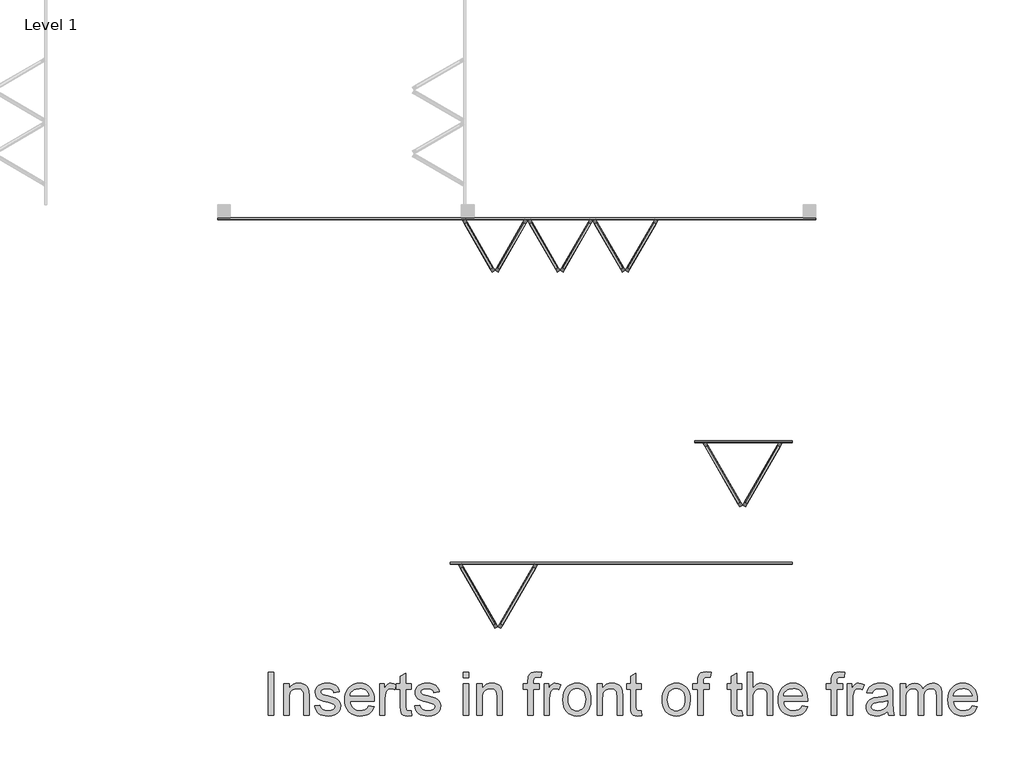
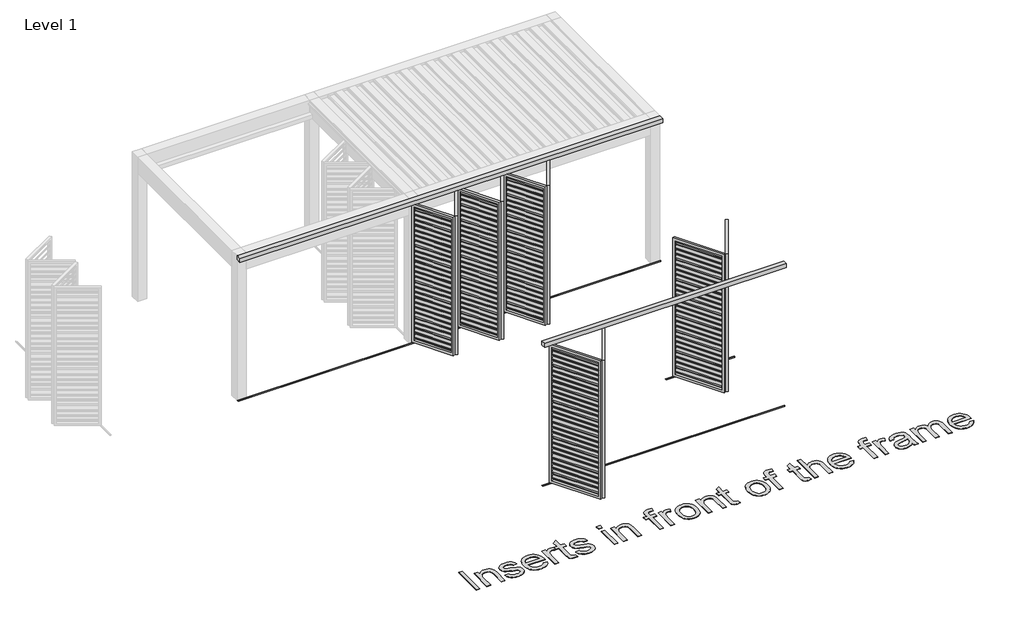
# One storey, part 20 of 80: 4 proxies.
"""IFC4 building model written with IfcOpenShell, lengths in millimetres."""

from ifc_helpers import new_model, si_unit, origin, origin_with_axes, place, context, project, spatial, polyline, outline, extrude, transform, mapped, element, save
from components import generic_models_ddcf315a, generic_models_abf47c1b, generic_models_126ff3a6, generic_models_4d2810b8, generic_models_fbcb0b04, generic_models_bdf7e427, generic_models_65c50402, generic_models_dd5ebc42

model = new_model("IFC4")

# Units and contexts
model_context = context("Model", 3, world=origin())
ifc_project = project(units=[si_unit("LENGTHUNIT", "METRE", prefix="MILLI")], contexts=[model_context])

# Site, building, storey
site = spatial("IfcSite", under=ifc_project)
building = spatial("IfcBuilding", under=site)
storey = spatial("IfcBuildingStorey", under=building, Name="Level 1", Elevation=0.0)

# Proxies
placement = place(None, origin())
generic_models_shape = generic_models_ddcf315a(model_context)
generic_models_2_shape = generic_models_abf47c1b(model_context)
element("IfcBuildingElementProxy", 1, Name="Renson_Amani_Loggia_Paro_Aluminium_Folding : Renson_Amani_Loggia_Paro_Aluminium_Folding", ObjectType="Renson_Amani_Loggia_Paro_Aluminium_Folding : Renson_Amani_Loggia_Paro_Aluminium_Folding", at=placement, inside=storey, context=model_context, shape_type="MappedRepresentation", body=[
    mapped(generic_models_shape, transform((392310.5749426, -45865.4892646, 0.0), x_axis=(1.0, 0.0, 0.0), y_axis=(0.0, 1.0, 0.0), z_axis=(0.0, 0.0, 1.0))),
    mapped(generic_models_2_shape, transform((392310.5749426, -45865.4892646, 0.0), x_axis=(1.0, 0.0, 0.0), y_axis=(0.0, 1.0, 0.0), z_axis=(0.0, 0.0, 1.0))),
])
generic_models_3_shape = generic_models_126ff3a6(model_context)
generic_models_4_shape = generic_models_4d2810b8(model_context)
element("IfcBuildingElementProxy", 2, Name="Renson_Amani_Loggia_Paro_Aluminium_Folding : Renson_Amani_Loggia_Paro_Aluminium_Folding", ObjectType="Renson_Amani_Loggia_Paro_Aluminium_Folding : Renson_Amani_Loggia_Paro_Aluminium_Folding", at=placement, inside=storey, context=model_context, shape_type="MappedRepresentation", body=[
    mapped(generic_models_3_shape, transform((395172.6465088, -44443.5650172, 0.0), x_axis=(1.0, 0.0, 0.0), y_axis=(0.0, 1.0, 0.0), z_axis=(0.0, 0.0, 1.0))),
    mapped(generic_models_4_shape, transform((395172.6465088, -44443.5650172, 0.0), x_axis=(1.0, 0.0, 0.0), y_axis=(0.0, 1.0, 0.0), z_axis=(0.0, 0.0, 1.0))),
])
generic_models_5_shape = generic_models_fbcb0b04(model_context)
generic_models_6_shape = generic_models_bdf7e427(model_context)
generic_models_7_shape = generic_models_65c50402(model_context)
generic_models_8_shape = generic_models_dd5ebc42(model_context)
element("IfcBuildingElementProxy", 3, Name="Renson_Amani_Loggia_Paro_Aluminium_Folding : Renson_Amani_Loggia_Paro_Aluminium_Folding", ObjectType="Renson_Amani_Loggia_Paro_Aluminium_Folding : Renson_Amani_Loggia_Paro_Aluminium_Folding", at=placement, inside=storey, context=model_context, shape_type="MappedRepresentation", body=[
    mapped(generic_models_5_shape, transform((392356.6346059, -41698.6077604, 0.0), x_axis=(1.0, 0.0, 0.0), y_axis=(0.0, 1.0, 0.0), z_axis=(0.0, 0.0, 1.0))),
    mapped(generic_models_6_shape, transform((392356.6346059, -41698.6077604, 0.0), x_axis=(1.0, 0.0, 0.0), y_axis=(0.0, 1.0, 0.0), z_axis=(0.0, 0.0, 1.0))),
    mapped(generic_models_7_shape, transform((392356.6346059, -41698.6077604, 0.0), x_axis=(1.0, 0.0, 0.0), y_axis=(0.0, 1.0, 0.0), z_axis=(0.0, 0.0, 1.0))),
    mapped(generic_models_8_shape, transform((392356.6346059, -41698.6077604, 0.0), x_axis=(1.0, 0.0, 0.0), y_axis=(0.0, 1.0, 0.0), z_axis=(0.0, 0.0, 1.0))),
])
element("IfcBuildingElementProxy", 4, Name="500mm Arial", ObjectType="500mm Arial", at=placement, inside=storey, context=model_context, shape_type="SweptSolid", body=[
    extrude(outline(polyline([(390083.7434432, -46882.3382736), (390083.7434432, -46380.0567228), (390146.5286371, -46380.0567228), (390146.5286371, -46882.3382736), (390083.7434432, -46882.3382736)])), origin_with_axes(), (0.0, 0.0, 1.0), 5.0),
    extrude(outline(polyline([(390264.2508755, -46882.3382736), (390264.2508755, -46513.4752597), (390327.0360694, -46513.4752597), (390327.0360694, -46564.9787391), (390348.848406, -46539.0124016), (390375.0446697, -46520.4650176), (390405.6248606, -46509.3365873), (390440.5889785, -46505.6271105), (390471.5370514, -46508.6161517), (390499.8792934, -46517.5832753), (390523.5157116, -46531.409507), (390540.3463129, -46548.9758723), (390551.7659832, -46570.2363859), (390559.1696083, -46595.1450627), (390562.4805463, -46655.8455919), (390562.4805463, -46882.3382736), (390499.6953524, -46882.3382736), (390499.6953524, -46664.3068778), (390497.8865993, -46631.8412917), (390492.4603399, -46608.7566965), (390482.4508839, -46592.2173351), (390466.8925412, -46579.3874505), (390446.9502714, -46571.1560909), (390423.7890341, -46568.4123043), (390404.7243161, -46569.9528102), (390387.016163, -46574.5743278), (390370.6645747, -46582.276857), (390355.6695513, -46593.060398), (390343.142403, -46608.151224), (390334.1944399, -46628.7756084), (390328.825662, -46654.9335511), (390327.0360694, -46686.6250521), (390327.0360694, -46882.3382736), (390264.2508755, -46882.3382736)])), origin_with_axes(), (0.0, 0.0, 1.0), 5.0),
    extrude(outline(polyline([(390625.2657401, -46772.4641843), (390688.050934, -46764.6160351), (390697.953091, -46791.4714208), (390717.1136116, -46811.2144212), (390745.655123, -46823.354527), (390783.7002527, -46827.4012289), (390821.2855299, -46823.6917522), (390847.7117199, -46812.5633218), (390863.3467047, -46796.4378277), (390868.5583663, -46777.7371596), (390863.3160478, -46761.7342928), (390847.5890925, -46749.5328733), (390782.9644887, -46731.6292829), (390725.666868, -46715.0592647), (390688.418816, -46700.9111363), (390664.4911579, -46685.4754209), (390647.1547188, -46665.0426417), (390636.6240967, -46640.9157142), (390633.1138894, -46614.3975537), (390635.934318, -46590.0713568), (390644.3956039, -46567.6152267), (390657.7313262, -46547.9182115), (390675.1750641, -46531.8693595), (390692.5115032, -46521.767933), (390715.0902606, -46513.2913187), (390741.1945539, -46507.5431626), (390769.1076002, -46505.6271105), (390809.9731585, -46508.7081222), (390845.5044279, -46517.9511573), (390874.0765962, -46532.4518393), (390894.0648513, -46551.3057916), (390907.3086031, -46575.9079), (390915.6472616, -46607.6530505), (390852.8620678, -46615.5011997), (390844.9372765, -46595.7428709), (390829.2563064, -46580.8589785), (390805.6658735, -46571.5239729), (390774.0126935, -46568.4123043), (390737.960258, -46571.3860171), (390713.925301, -46580.3071555), (390700.4056376, -46593.1830254), (390695.8990832, -46608.0209325), (390697.76915, -46617.6778349), (390703.3793504, -46626.2924049), (390712.9749391, -46633.98727), (390726.8011708, -46640.1492934), (390780.8798241, -46653.5156726), (390873.0342639, -46683.0688595), (390897.3757892, -46697.2016595), (390915.8312026, -46716.5461211), (390927.4654707, -46741.1635579), (390931.3435601, -46771.1152837), (390926.7910204, -46802.0786849), (390913.1334013, -46831.2026762), (390890.8918691, -46856.2033235), (390860.5875897, -46874.7966927), (390823.9833312, -46886.3389903), (390782.8418614, -46890.1864228), (390749.0503673, -46888.3316844), (390719.5355014, -46882.7674692), (390694.2972637, -46873.4937773), (390673.3356542, -46860.5106085), (390656.213813, -46843.8792766), (390642.4948802, -46823.6610953), (390632.1788559, -46799.8560646), (390625.2657401, -46772.4641843)])), origin_with_axes(), (0.0, 0.0, 1.0), 5.0),
    extrude(outline(polyline([(391260.2300638, -46772.4641843), (391321.7889843, -46780.3123336), (391312.3505119, -46804.9680915), (391299.6087657, -46826.6961218), (391283.5637458, -46845.4964246), (391264.2154521, -46861.3689998), (391241.7631541, -46873.9766224), (391216.4061211, -46882.9820671), (391188.1443533, -46888.3853339), (391156.9778505, -46890.1864228), (391118.02068, -46887.0785864), (391083.3094809, -46877.755077), (391052.8442532, -46862.2158948), (391026.6249969, -46840.4610398), (391005.54076, -46813.0959843), (390990.4805908, -46780.7262008), (390981.4444893, -46743.3516894), (390978.4324555, -46700.9724499), (390981.4751462, -46657.1561715), (390990.6032182, -46618.5362262), (391005.8166715, -46585.1126141), (391027.1155062, -46556.8853352), (391053.2657847, -46534.4598619), (391083.0335695, -46518.4416667), (391116.4188605, -46508.8307495), (391153.4216579, -46505.6271105), (391189.2326708, -46508.8230853), (391221.6177827, -46518.4110098), (391250.5769935, -46534.390884), (391276.1103033, -46556.7627078), (391296.9531175, -46584.9286731), (391311.840842, -46618.2909715), (391320.7734767, -46656.8496031), (391323.7510216, -46700.6045679), (391323.3831396, -46717.5271397), (391041.2176493, -46717.5271397), (391044.8543161, -46742.5814364), (391052.0854966, -46764.5240646), (391062.9111907, -46783.3550242), (391077.3313985, -46799.0743153), (391094.5490423, -46811.46734), (391113.7670445, -46820.3195005), (391134.985405, -46825.6307968), (391158.2041238, -46827.4012289), (391191.6200717, -46824.1209478), (391219.7630443, -46814.2801045), (391242.6330417, -46797.2655622), (391260.2300638, -46772.4641843)]), holes=[polyline([(391041.2176493, -46654.7419459), (391260.9658278, -46654.7419459), (391252.4738851, -46621.5712526), (391235.8272248, -46597.842864), (391218.7053836, -46584.9669941), (391199.2229663, -46575.7699442), (391177.3799728, -46570.2517143), (391153.1764032, -46568.4123043), (391110.8546453, -46574.2830879), (391092.4413851, -46581.6215672), (391075.8598705, -46591.8954384), (391061.9455005, -46604.6295203), (391051.5336736, -46619.3486323), (391044.6243899, -46636.0527741), (391041.2176493, -46654.7419459)])]), origin_with_axes(), (0.0, 0.0, 1.0), 5.0),
    extrude(outline(polyline([(391755.3992293, -46829.9764029), (391763.2473785, -46884.1776835), (391716.2811105, -46890.1864228), (391686.1454437, -46887.580592), (391663.6739852, -46879.7630996), (391647.7937457, -46867.7149643), (391637.4317362, -46852.4172046), (391631.7295653, -46826.1442988), (391629.8288416, -46781.1707249), (391629.8288416, -46576.2604536), (391582.7399462, -46576.2604536), (391582.7399462, -46525.0022289), (391582.7399462, -46513.4752597), (391629.8288416, -46513.4752597), (391629.8288416, -46423.8346802), (391692.6140355, -46386.9238534), (391692.6140355, -46513.4752597), (391755.3992293, -46513.4752597), (391755.3992293, -46576.2604536), (391692.6140355, -46576.2604536), (391692.6140355, -46779.3313149), (391695.9249734, -46811.7049305), (391706.6548649, -46823.170586), (391728.0533343, -46827.4012289), (391755.3992293, -46829.9764029)])), origin_with_axes(), (0.0, 0.0, 1.0), 5.0),
    extrude(outline(polyline([(391386.5362155, -46882.3382736), (391386.5362155, -46513.4752597), (391441.4732601, -46513.4752597), (391441.4732601, -46568.0444223), (391461.7680835, -46536.4065708), (391480.4687516, -46517.7672163), (391499.2307333, -46508.662137), (391519.7094977, -46505.6271105), (391550.9794673, -46510.4708901), (391582.7399462, -46525.0022289), (391561.7706725, -46581.2881742), (391539.6977528, -46571.6312718), (391517.6248331, -46568.4123043), (391498.8781798, -46571.5086445), (391482.1242206, -46580.7976648), (391468.5892288, -46595.5742583), (391459.4994779, -46615.1333177), (391451.8659265, -46650.2047346), (391449.3214093, -46688.4644621), (391449.3214093, -46882.3382736), (391386.5362155, -46882.3382736)])), origin_with_axes(), (0.0, 0.0, 1.0), 5.0),
    extrude(outline(polyline([(391794.6399755, -46772.4641843), (391857.4251693, -46764.6160351), (391867.3273263, -46791.4714208), (391886.4878469, -46811.2144212), (391915.0293584, -46823.354527), (391953.074488, -46827.4012289), (391990.6597652, -46823.6917522), (392017.0859552, -46812.5633218), (392032.72094, -46796.4378277), (392037.9326016, -46777.7371596), (392032.6902832, -46761.7342928), (392016.9633279, -46749.5328733), (391952.3387241, -46731.6292829), (391895.0411033, -46715.0592647), (391857.7930513, -46700.9111363), (391833.8653932, -46685.4754209), (391816.5289542, -46665.0426417), (391805.9983321, -46640.9157142), (391802.4881247, -46614.3975537), (391805.3085533, -46590.0713568), (391813.7698392, -46567.6152267), (391827.1055615, -46547.9182115), (391844.5492995, -46531.8693595), (391861.8857385, -46521.767933), (391884.4644959, -46513.2913187), (391910.5687892, -46507.5431626), (391938.4818356, -46505.6271105), (391979.3473939, -46508.7081222), (392014.8786632, -46517.9511573), (392043.4508315, -46532.4518393), (392063.4390866, -46551.3057916), (392076.6828384, -46575.9079), (392085.021497, -46607.6530505), (392022.2363031, -46615.5011997), (392014.3115118, -46595.7428709), (391998.6305418, -46580.8589785), (391975.0401088, -46571.5239729), (391943.3869288, -46568.4123043), (391907.3344933, -46571.3860171), (391883.2995363, -46580.3071555), (391869.779873, -46593.1830254), (391865.2733185, -46608.0209325), (391867.1433853, -46617.6778349), (391872.7535858, -46626.2924049), (391882.3491745, -46633.98727), (391896.1754061, -46640.1492934), (391950.2540594, -46653.5156726), (392042.4084992, -46683.0688595), (392066.7500246, -46697.2016595), (392085.205438, -46716.5461211), (392096.8397061, -46741.1635579), (392100.7177954, -46771.1152837), (392096.1652558, -46802.0786849), (392082.5076367, -46831.2026762), (392060.2661044, -46856.2033235), (392029.961825, -46874.7966927), (391993.3575665, -46886.3389903), (391952.2160967, -46890.1864228), (391918.4246026, -46888.3316844), (391888.9097367, -46882.7674692), (391863.671499, -46873.4937773), (391842.7098895, -46860.5106085), (391825.5880483, -46843.8792766), (391811.8691156, -46823.6610953), (391801.5530913, -46799.8560646), (391794.6399755, -46772.4641843)])), origin_with_axes(), (0.0, 0.0, 1.0), 5.0),
    extrude(outline(polyline([(392367.5548693, -46442.8419167), (392367.5548693, -46380.0567228), (392430.3400631, -46380.0567228), (392430.3400631, -46442.8419167), (392367.5548693, -46442.8419167)])), origin_with_axes(), (0.0, 0.0, 1.0), 5.0),
    extrude(outline(polyline([(392367.5548693, -46882.3382736), (392367.5548693, -46513.4752597), (392430.3400631, -46513.4752597), (392430.3400631, -46882.3382736), (392367.5548693, -46882.3382736)])), origin_with_axes(), (0.0, 0.0, 1.0), 5.0),
    extrude(outline(polyline([(392524.5178539, -46882.3382736), (392524.5178539, -46513.4752597), (392587.3030477, -46513.4752597), (392587.3030477, -46564.9787391), (392609.1153844, -46539.0124016), (392635.3116481, -46520.4650176), (392665.891839, -46509.3365873), (392700.8559569, -46505.6271105), (392731.8040298, -46508.6161517), (392760.1462718, -46517.5832753), (392783.78269, -46531.409507), (392800.6132913, -46548.9758723), (392812.0329615, -46570.2363859), (392819.4365867, -46595.1450627), (392822.7475246, -46655.8455919), (392822.7475246, -46882.3382736), (392759.9623308, -46882.3382736), (392759.9623308, -46664.3068778), (392758.1535777, -46631.8412917), (392752.7273182, -46608.7566965), (392742.7178623, -46592.2173351), (392727.1595196, -46579.3874505), (392707.2172497, -46571.1560909), (392684.0560125, -46568.4123043), (392664.9912945, -46569.9528102), (392647.2831414, -46574.5743278), (392630.9315531, -46582.276857), (392615.9365297, -46593.060398), (392603.4093813, -46608.151224), (392594.4614182, -46628.7756084), (392589.0926404, -46654.9335511), (392587.3030477, -46686.6250521), (392587.3030477, -46882.3382736), (392524.5178539, -46882.3382736)])), origin_with_axes(), (0.0, 0.0, 1.0), 5.0),
    extrude(outline(polyline([(393120.9771954, -46882.3382736), (393120.9771954, -46576.2604536), (393066.0401508, -46576.2604536), (393066.0401508, -46513.4752597), (393120.9771954, -46513.4752597), (393120.9771954, -46476.3191782), (393122.6326644, -46445.5703748), (393127.5990713, -46423.9573076), (393140.2296865, -46403.0800043), (393159.7274322, -46386.5559714), (393187.0120135, -46375.795423), (393223.0031354, -46372.2085736), (393280.2700993, -46379.0757042), (393271.0730494, -46437.9368234), (393234.8979866, -46434.9937674), (393211.0316421, -46437.5995982), (393195.3506721, -46445.4170906), (393186.65946, -46460.3469683), (393183.7623892, -46484.2899548), (393183.7623892, -46513.4752597), (393254.3957323, -46513.4752597), (393254.3957323, -46576.2604536), (393183.7623892, -46576.2604536), (393183.7623892, -46882.3382736), (393120.9771954, -46882.3382736)])), origin_with_axes(), (0.0, 0.0, 1.0), 5.0),
    extrude(outline(polyline([(393309.3327769, -46882.3382736), (393309.3327769, -46513.4752597), (393364.2698215, -46513.4752597), (393364.2698215, -46568.0444223), (393384.5646449, -46536.4065708), (393403.265313, -46517.7672163), (393422.0272948, -46508.662137), (393442.5060592, -46505.6271105), (393473.7760288, -46510.4708901), (393505.5365077, -46525.0022289), (393484.567234, -46581.2881742), (393462.4943143, -46571.6312718), (393440.4213945, -46568.4123043), (393421.6747412, -46571.5086445), (393404.920782, -46580.7976648), (393391.3857903, -46595.5742583), (393382.2960393, -46615.1333177), (393374.6624879, -46650.2047346), (393372.1179708, -46688.4644621), (393372.1179708, -46882.3382736), (393309.3327769, -46882.3382736)])), origin_with_axes(), (0.0, 0.0, 1.0), 5.0),
    extrude(outline(polyline([(393529.0809554, -46697.9067666), (393532.4761996, -46650.1357567), (393542.6619324, -46608.9712943), (393559.6381536, -46574.4133794), (393583.4048633, -46546.462012), (393607.3325214, -46528.5967426), (393633.743383, -46515.8358359), (393662.637448, -46508.1792918), (393694.0147166, -46505.6271105), (393728.6531057, -46508.7349469), (393759.9728926, -46518.0584563), (393787.9740774, -46533.5976384), (393812.65666, -46555.3524935), (393832.8020313, -46582.5872575), (393847.1915823, -46614.5661663), (393855.8253129, -46651.2892201), (393858.7032231, -46692.7564187), (393853.6141888, -46756.185406), (393847.252896, -46782.2207214), (393838.347086, -46804.4699179), (393827.0078899, -46823.6879201), (393813.3464387, -46840.6296524), (393797.3627325, -46855.2951148), (393779.0567711, -46867.6843074), (393738.3291686, -46884.5608939), (393694.0147166, -46890.1864228), (393658.8704897, -46887.0900827), (393627.2594628, -46877.8010623), (393599.181636, -46862.3193617), (393574.6370091, -46840.6449808), (393554.7062356, -46813.1458016), (393540.4699688, -46780.1897062), (393531.9282087, -46741.7766946), (393529.0809554, -46697.9067666)]), holes=[polyline([(393591.8661492, -46697.7841393), (393593.6825666, -46728.2378707), (393599.1318186, -46754.6065792), (393608.2139054, -46776.8902646), (393620.9288268, -46795.088927), (393636.3951991, -46809.2255591), (393653.7316381, -46819.3231535), (393672.9381439, -46825.3817101), (393694.0147166, -46827.4012289), (393714.9839903, -46825.3702138), (393734.113854, -46819.2771682), (393751.4043078, -46809.1220923), (393766.8553516, -46794.904986), (393779.5702731, -46776.5262147), (393788.6523598, -46753.8861436), (393794.1016119, -46726.9847727), (393795.9180292, -46695.822102), (393794.0901156, -46666.3340608), (393788.6063746, -46640.6551311), (393779.4668062, -46618.785313), (393766.6714106, -46600.7246063), (393751.1628852, -46586.5879742), (393733.8839278, -46576.4903798), (393714.8345382, -46570.4318232), (393694.0147166, -46568.4123043), (393672.9381439, -46570.424159), (393653.7316381, -46576.459723), (393636.3951991, -46586.5189963), (393620.9288268, -46600.6019789), (393608.2139054, -46618.7469919), (393599.1318186, -46640.9923563), (393593.6825666, -46667.3380721), (393591.8661492, -46697.7841393)])]), origin_with_axes(), (0.0, 0.0, 1.0), 5.0),
    extrude(outline(polyline([(393929.3365661, -46882.3382736), (393929.3365661, -46513.4752597), (393992.12176, -46513.4752597), (393992.12176, -46564.9787391), (394013.9340966, -46539.0124016), (394040.1303604, -46520.4650176), (394070.7105512, -46509.3365873), (394105.6746692, -46505.6271105), (394136.622742, -46508.6161517), (394164.964984, -46517.5832753), (394188.6014022, -46531.409507), (394205.4320035, -46548.9758723), (394216.8516738, -46570.2363859), (394224.2552989, -46595.1450627), (394227.5662369, -46655.8455919), (394227.5662369, -46882.3382736), (394164.781043, -46882.3382736), (394164.781043, -46664.3068778), (394162.9722899, -46631.8412917), (394157.5460305, -46608.7566965), (394147.5365745, -46592.2173351), (394131.9782318, -46579.3874505), (394112.035962, -46571.1560909), (394088.8747247, -46568.4123043), (394069.8100067, -46569.9528102), (394052.1018536, -46574.5743278), (394035.7502653, -46582.276857), (394020.7552419, -46593.060398), (394008.2280936, -46608.151224), (393999.2801305, -46628.7756084), (393993.9113526, -46654.9335511), (393992.12176, -46686.6250521), (393992.12176, -46882.3382736), (393929.3365661, -46882.3382736)])), origin_with_axes(), (0.0, 0.0, 1.0), 5.0),
    extrude(outline(polyline([(394447.3144153, -46829.9764029), (394455.1625646, -46884.1776835), (394408.1962965, -46890.1864228), (394378.0606298, -46887.580592), (394355.5891712, -46879.7630996), (394339.7089318, -46867.7149643), (394329.3469222, -46852.4172046), (394323.6447513, -46826.1442988), (394321.7440277, -46781.1707249), (394321.7440277, -46576.2604536), (394274.6551323, -46576.2604536), (394274.6551323, -46513.4752597), (394321.7440277, -46513.4752597), (394321.7440277, -46423.8346802), (394384.5292215, -46386.9238534), (394384.5292215, -46513.4752597), (394447.3144153, -46513.4752597), (394447.3144153, -46576.2604536), (394384.5292215, -46576.2604536), (394384.5292215, -46779.3313149), (394387.8401595, -46811.7049305), (394398.570051, -46823.170586), (394419.9685204, -46827.4012289), (394447.3144153, -46829.9764029)])), origin_with_axes(), (0.0, 0.0, 1.0), 5.0),
    extrude(outline(polyline([(394690.6070415, -46697.9067666), (394694.0022857, -46650.1357567), (394704.1880185, -46608.9712943), (394721.1642397, -46574.4133794), (394744.9309494, -46546.462012), (394768.8586075, -46528.5967426), (394795.2694691, -46515.8358359), (394824.1635342, -46508.1792918), (394855.5408027, -46505.6271105), (394890.1791918, -46508.7349469), (394921.4989787, -46518.0584563), (394949.5001635, -46533.5976384), (394974.1827461, -46555.3524935), (394994.3281174, -46582.5872575), (395008.7176684, -46614.5661663), (395017.351399, -46651.2892201), (395020.2293092, -46692.7564187), (395015.1402749, -46756.185406), (395008.7789821, -46782.2207214), (394999.8731721, -46804.4699179), (394988.533976, -46823.6879201), (394974.8725248, -46840.6296524), (394958.8888186, -46855.2951148), (394940.5828572, -46867.6843074), (394899.8552547, -46884.5608939), (394855.5408027, -46890.1864228), (394820.3965758, -46887.0900827), (394788.785549, -46877.8010623), (394760.7077221, -46862.3193617), (394736.1630952, -46840.6449808), (394716.2323217, -46813.1458016), (394701.9960549, -46780.1897062), (394693.4542948, -46741.7766946), (394690.6070415, -46697.9067666)]), holes=[polyline([(394753.3922353, -46697.7841393), (394755.2086527, -46728.2378707), (394760.6579047, -46754.6065792), (394769.7399915, -46776.8902646), (394782.454913, -46795.088927), (394797.9212852, -46809.2255591), (394815.2577242, -46819.3231535), (394834.46423, -46825.3817101), (394855.5408027, -46827.4012289), (394876.5100764, -46825.3702138), (394895.6399401, -46819.2771682), (394912.9303939, -46809.1220923), (394928.3814377, -46794.904986), (394941.0963592, -46776.5262147), (394950.1784459, -46753.8861436), (394955.627698, -46726.9847727), (394957.4441153, -46695.822102), (394955.6162017, -46666.3340608), (394950.1324607, -46640.6551311), (394940.9928924, -46618.785313), (394928.1974967, -46600.7246063), (394912.6889713, -46586.5879742), (394895.4100139, -46576.4903798), (394876.3606243, -46570.4318232), (394855.5408027, -46568.4123043), (394834.46423, -46570.424159), (394815.2577242, -46576.459723), (394797.9212852, -46586.5189963), (394782.454913, -46600.6019789), (394769.7399915, -46618.7469919), (394760.6579047, -46640.9923563), (394755.2086527, -46667.3380721), (394753.3922353, -46697.7841393)])]), origin_with_axes(), (0.0, 0.0, 1.0), 5.0),
    extrude(outline(polyline([(395106.5589507, -46882.3382736), (395106.5589507, -46576.2604536), (395051.6219061, -46576.2604536), (395051.6219061, -46513.4752597), (395106.5589507, -46513.4752597), (395106.5589507, -46476.3191782), (395108.2144197, -46445.5703748), (395113.1808266, -46423.9573076), (395125.8114418, -46403.0800043), (395145.3091875, -46386.5559714), (395172.5937688, -46375.795423), (395208.5848907, -46372.2085736), (395265.8518546, -46379.0757042), (395256.6548047, -46437.9368234), (395220.4797419, -46434.9937674), (395196.6133974, -46437.5995982), (395180.9324274, -46445.4170906), (395172.2412153, -46460.3469683), (395169.3441445, -46484.2899548), (395169.3441445, -46513.4752597), (395239.9774876, -46513.4752597), (395239.9774876, -46576.2604536), (395169.3441445, -46576.2604536), (395169.3441445, -46882.3382736), (395106.5589507, -46882.3382736)])), origin_with_axes(), (0.0, 0.0, 1.0), 5.0),
    extrude(outline(polyline([(395624.5367999, -46829.9764029), (395632.3849491, -46884.1776835), (395585.4186811, -46890.1864228), (395555.2830143, -46887.580592), (395532.8115558, -46879.7630996), (395516.9313163, -46867.7149643), (395506.5693068, -46852.4172046), (395500.8671359, -46826.1442988), (395498.9664122, -46781.1707249), (395498.9664122, -46576.2604536), (395451.8775168, -46576.2604536), (395451.8775168, -46513.4752597), (395498.9664122, -46513.4752597), (395498.9664122, -46423.8346802), (395561.7516061, -46386.9238534), (395561.7516061, -46513.4752597), (395624.5367999, -46513.4752597), (395624.5367999, -46576.2604536), (395561.7516061, -46576.2604536), (395561.7516061, -46779.3313149), (395565.062544, -46811.7049305), (395575.7924355, -46823.170586), (395597.1909049, -46827.4012289), (395624.5367999, -46829.9764029)])), origin_with_axes(), (0.0, 0.0, 1.0), 5.0),
    extrude(outline(polyline([(395687.3219938, -46882.3382736), (395687.3219938, -46380.0567228), (395750.1071876, -46380.0567228), (395750.1071876, -46564.7334844), (395773.1687902, -46538.8744458), (395799.0661498, -46520.403704), (395827.7992665, -46509.3212589), (395859.3681402, -46505.6271105), (395897.2906425, -46509.658484), (395929.8788559, -46521.7526046), (395955.5386251, -46540.9591105), (395972.6757947, -46566.3276397), (395982.3326971, -46601.1844587), (395985.5516645, -46648.855834), (395985.5516645, -46882.3382736), (395922.7664707, -46882.3382736), (395922.7664707, -46655.3550825), (395917.7694069, -46616.0530227), (395911.5230772, -46601.046503), (395902.7782156, -46589.1363234), (395891.7417557, -46580.0695651), (395878.6206312, -46573.5933091), (395846.1243883, -46568.4123043), (395819.5908994, -46571.9071833), (395794.6822227, -46582.3918202), (395774.0501741, -46598.8545394), (395760.3465698, -46620.2836657), (395752.6670331, -46648.7638635), (395750.1071876, -46686.3797975), (395750.1071876, -46882.3382736), (395687.3219938, -46882.3382736)])), origin_with_axes(), (0.0, 0.0, 1.0), 5.0),
    extrude(outline(polyline([(396330.1344667, -46772.4641843), (396391.6933872, -46780.3123336), (396382.2549147, -46804.9680915), (396369.5131686, -46826.6961218), (396353.4681486, -46845.4964246), (396334.1198549, -46861.3689998), (396311.6675569, -46873.9766224), (396286.310524, -46882.9820671), (396258.0487561, -46888.3853339), (396226.8822533, -46890.1864228), (396187.9250829, -46887.0785864), (396153.2138838, -46877.755077), (396122.7486561, -46862.2158948), (396096.5293997, -46840.4610398), (396075.4451629, -46813.0959843), (396060.3849937, -46780.7262008), (396051.3488922, -46743.3516894), (396048.3368584, -46700.9724499), (396051.379549, -46657.1561715), (396060.507621, -46618.5362262), (396075.7210744, -46585.1126141), (396097.019909, -46556.8853352), (396123.1701875, -46534.4598619), (396152.9379723, -46518.4416667), (396186.3232634, -46508.8307495), (396223.3260607, -46505.6271105), (396259.1370737, -46508.8230853), (396291.5221856, -46518.4110098), (396320.4813964, -46534.390884), (396346.0147061, -46556.7627078), (396366.8575204, -46584.9286731), (396381.7452449, -46618.2909715), (396390.6778796, -46656.8496031), (396393.6554245, -46700.6045679), (396393.2875425, -46717.5271397), (396111.1220522, -46717.5271397), (396114.758719, -46742.5814364), (396121.9898995, -46764.5240646), (396132.8155936, -46783.3550242), (396147.2358014, -46799.0743153), (396164.4534452, -46811.46734), (396183.6714473, -46820.3195005), (396204.8898078, -46825.6307968), (396228.1085267, -46827.4012289), (396261.5244746, -46824.1209478), (396289.6674472, -46814.2801045), (396312.5374446, -46797.2655622), (396330.1344667, -46772.4641843)]), holes=[polyline([(396111.1220522, -46654.7419459), (396330.8702307, -46654.7419459), (396322.3782879, -46621.5712526), (396305.7316276, -46597.842864), (396288.6097865, -46584.9669941), (396269.1273691, -46575.7699442), (396247.2843757, -46570.2517143), (396223.0808061, -46568.4123043), (396180.7590482, -46574.2830879), (396162.3457879, -46581.6215672), (396145.7642734, -46591.8954384), (396131.8499034, -46604.6295203), (396121.4380765, -46619.3486323), (396114.5287928, -46636.0527741), (396111.1220522, -46654.7419459)])]), origin_with_axes(), (0.0, 0.0, 1.0), 5.0),
    extrude(outline(polyline([(396668.3406476, -46882.3382736), (396668.3406476, -46576.2604536), (396613.4036029, -46576.2604536), (396613.4036029, -46513.4752597), (396668.3406476, -46513.4752597), (396668.3406476, -46476.3191782), (396669.9961165, -46445.5703748), (396674.9625235, -46423.9573076), (396687.5931386, -46403.0800043), (396707.0908844, -46386.5559714), (396734.3754657, -46375.795423), (396770.3665876, -46372.2085736), (396827.6335515, -46379.0757042), (396818.4365016, -46437.9368234), (396782.2614387, -46434.9937674), (396758.3950943, -46437.5995982), (396742.7141243, -46445.4170906), (396734.0229121, -46460.3469683), (396731.1258414, -46484.2899548), (396731.1258414, -46513.4752597), (396801.7591845, -46513.4752597), (396801.7591845, -46576.2604536), (396731.1258414, -46576.2604536), (396731.1258414, -46882.3382736), (396668.3406476, -46882.3382736)])), origin_with_axes(), (0.0, 0.0, 1.0), 5.0),
    extrude(outline(polyline([(396856.6962291, -46882.3382736), (396856.6962291, -46513.4752597), (396911.6332737, -46513.4752597), (396911.6332737, -46568.0444223), (396931.9280971, -46536.4065708), (396950.6287652, -46517.7672163), (396969.3907469, -46508.662137), (396989.8695113, -46505.6271105), (397021.1394809, -46510.4708901), (397052.8999599, -46525.0022289), (397031.9306861, -46581.2881742), (397009.8577664, -46571.6312718), (396987.7848467, -46568.4123043), (396969.0381934, -46571.5086445), (396952.2842342, -46580.7976648), (396938.7492424, -46595.5742583), (396929.6594915, -46615.1333177), (396922.0259401, -46650.2047346), (396919.4814229, -46688.4644621), (396919.4814229, -46882.3382736), (396856.6962291, -46882.3382736)])), origin_with_axes(), (0.0, 0.0, 1.0), 5.0),
    extrude(outline(polyline([(397327.5851829, -46835.2493782), (397297.5874719, -46860.970461), (397266.7007127, -46877.8010623), (397234.2197982, -46887.0900827), (397199.4396213, -46890.1864228), (397171.4844217, -46888.3240202), (397146.9704517, -46882.7368124), (397125.8977112, -46873.4247994), (397108.2662001, -46860.3879812), (397094.3441659, -46844.4540923), (397084.3998557, -46826.4508671), (397078.4332696, -46806.3783058), (397076.4444075, -46784.2364082), (397079.4487772, -46758.208757), (397088.4618861, -46734.5723388), (397102.3647598, -46714.3388291), (397120.038424, -46698.5199033), (397140.8084283, -46686.5637385), (397164.0003224, -46677.9185116), (397218.3242303, -46668.476207), (397282.5196385, -46658.5433932), (397327.2173009, -46646.8937966), (397327.5851829, -46632.9142808), (397323.2625695, -46604.8939355), (397310.2947291, -46586.5611494), (397297.2195899, -46578.6210297), (397281.2933652, -46572.9495156), (397240.8876594, -46568.4123043), (397203.4863232, -46571.4320024), (397177.3667016, -46580.4910965), (397159.5550816, -46597.2450557), (397147.0777506, -46623.349349), (397084.2925568, -46615.5011997), (397095.1910609, -46581.1655468), (397111.4545107, -46554.1875339), (397134.6004196, -46533.5554853), (397166.1463007, -46518.2577257), (397204.7279249, -46508.7847643), (397248.9810633, -46505.6271105), (397291.4254485, -46508.4168823), (397325.0713226, -46516.7861977), (397350.4398519, -46529.3708276), (397368.0522024, -46544.806543), (397379.7324557, -46563.8904215), (397387.3046935, -46587.4195408), (397390.3703768, -46642.3565854), (397390.3703768, -46720.4701957), (397393.5586874, -46829.5472073), (397398.2798397, -46856.5098918), (397406.0666752, -46882.3382736), (397343.2814814, -46882.3382736), (397333.2260402, -46860.5106085), (397327.5851829, -46835.2493782)]), holes=[polyline([(397327.5851829, -46709.6789905), (397285.4013808, -46720.1329705), (397226.2950069, -46728.9314816), (397172.2776673, -46739.1095501), (397158.2215094, -46746.0686512), (397147.8135146, -46755.6642399), (397141.3755797, -46767.1605522), (397139.2296014, -46779.8218242), (397143.9047684, -46798.4918355), (397157.9302695, -46813.7895951), (397180.9995363, -46823.9983205), (397212.8060004, -46827.4012289), (397246.5285166, -46823.6457669), (397276.3269583, -46812.3793808), (397300.4845426, -46795.7787058), (397317.2844871, -46776.020377), (397324.7340975, -46755.6642399), (397327.2173009, -46727.4599536), (397327.5851829, -46709.6789905)])]), origin_with_axes(), (0.0, 0.0, 1.0), 5.0),
    extrude(outline(polyline([(397476.7000183, -46882.3382736), (397476.7000183, -46513.4752597), (397539.4852121, -46513.4752597), (397539.4852121, -46574.1757889), (397558.3698212, -46546.2933994), (397582.6500329, -46524.4504059), (397611.4981127, -46510.3329344), (397644.0863261, -46505.6271105), (397679.0044588, -46510.4249049), (397706.9941473, -46524.8182879), (397727.9021073, -46547.8568979), (397741.5750548, -46578.5903729), (397764.4603806, -46546.6689456), (397790.5646738, -46523.8679261), (397819.8879345, -46510.1873144), (397852.4301627, -46505.6271105), (397877.5649336, -46507.524002), (397899.626357, -46513.2146767), (397918.6144329, -46522.6991343), (397934.5291613, -46535.9773751), (397947.1099591, -46553.2026831), (397956.0962433, -46574.5283425), (397961.4880138, -46599.9543533), (397963.2852706, -46629.4807155), (397963.2852706, -46882.3382736), (397900.5000767, -46882.3382736), (397900.5000767, -46656.4587285), (397899.0438772, -46625.1427737), (397894.6752785, -46604.0355442), (397886.4899041, -46589.5808475), (397873.5833774, -46578.2224909), (397856.9827024, -46570.864851), (397837.7148829, -46568.4123043), (397819.9224235, -46569.983467), (397803.7011268, -46574.6969551), (397789.0509927, -46582.5527685), (397775.9720214, -46593.5509073), (397765.2153051, -46608.0132683), (397757.5319364, -46626.2617481), (397752.9219151, -46648.2963468), (397751.3852414, -46674.1170643), (397751.3852414, -46882.3382736), (397688.6000475, -46882.3382736), (397688.6000475, -46649.4689706), (397684.9672128, -46613.9683581), (397674.0687087, -46588.6458141), (397665.6419118, -46579.7936536), (397654.8928597, -46573.4706818), (397626.4279903, -46568.4123043), (397602.2397491, -46571.784556), (397579.9522316, -46581.9013108), (397561.5581318, -46598.5173143), (397549.050144, -46621.3873117), (397541.8764451, -46653.1171337), (397539.4852121, -46696.3126113), (397539.4852121, -46882.3382736), (397476.7000183, -46882.3382736)])), origin_with_axes(), (0.0, 0.0, 1.0), 5.0),
    extrude(outline(polyline([(398315.716222, -46772.4641843), (398377.2751425, -46780.3123336), (398367.83667, -46804.9680915), (398355.0949239, -46826.6961218), (398339.0499039, -46845.4964246), (398319.7016102, -46861.3689998), (398297.2493122, -46873.9766224), (398271.8922793, -46882.9820671), (398243.6305114, -46888.3853339), (398212.4640086, -46890.1864228), (398173.5068382, -46887.0785864), (398138.7956391, -46877.755077), (398108.3304114, -46862.2158948), (398082.111155, -46840.4610398), (398061.0269182, -46813.0959843), (398045.966749, -46780.7262008), (398036.9306475, -46743.3516894), (398033.9186137, -46700.9724499), (398036.9613043, -46657.1561715), (398046.0893763, -46618.5362262), (398061.3028297, -46585.1126141), (398082.6016644, -46556.8853352), (398108.7519428, -46534.4598619), (398138.5197276, -46518.4416667), (398171.9050187, -46508.8307495), (398208.907816, -46505.6271105), (398244.718829, -46508.8230853), (398277.1039409, -46518.4110098), (398306.0631517, -46534.390884), (398331.5964614, -46556.7627078), (398352.4392757, -46584.9286731), (398367.3270002, -46618.2909715), (398376.2596349, -46656.8496031), (398379.2371798, -46700.6045679), (398378.8692978, -46717.5271397), (398096.7038075, -46717.5271397), (398100.3404743, -46742.5814364), (398107.5716548, -46764.5240646), (398118.3973489, -46783.3550242), (398132.8175567, -46799.0743153), (398150.0352005, -46811.46734), (398169.2532026, -46820.3195005), (398190.4715631, -46825.6307968), (398213.690282, -46827.4012289), (398247.1062299, -46824.1209478), (398275.2492025, -46814.2801045), (398298.1191999, -46797.2655622), (398315.716222, -46772.4641843)]), holes=[polyline([(398096.7038075, -46654.7419459), (398316.451986, -46654.7419459), (398307.9600432, -46621.5712526), (398291.3133829, -46597.842864), (398274.1915418, -46584.9669941), (398254.7091244, -46575.7699442), (398232.866131, -46570.2517143), (398208.6625614, -46568.4123043), (398166.3408035, -46574.2830879), (398147.9275432, -46581.6215672), (398131.3460287, -46591.8954384), (398117.4316587, -46604.6295203), (398107.0198318, -46619.3486323), (398100.1105481, -46636.0527741), (398096.7038075, -46654.7419459)])]), origin_with_axes(), (0.0, 0.0, 1.0), 5.0),
])

save(model, "model.ifc")
